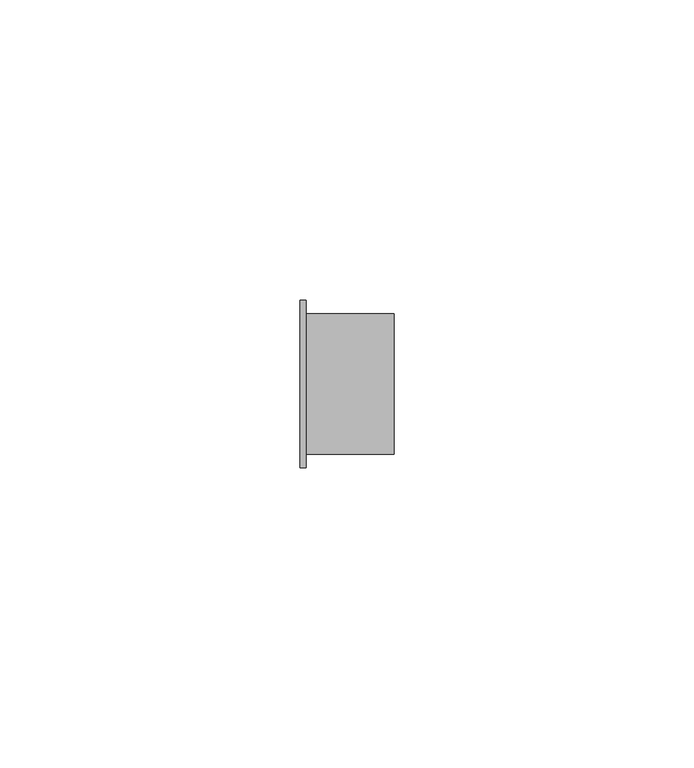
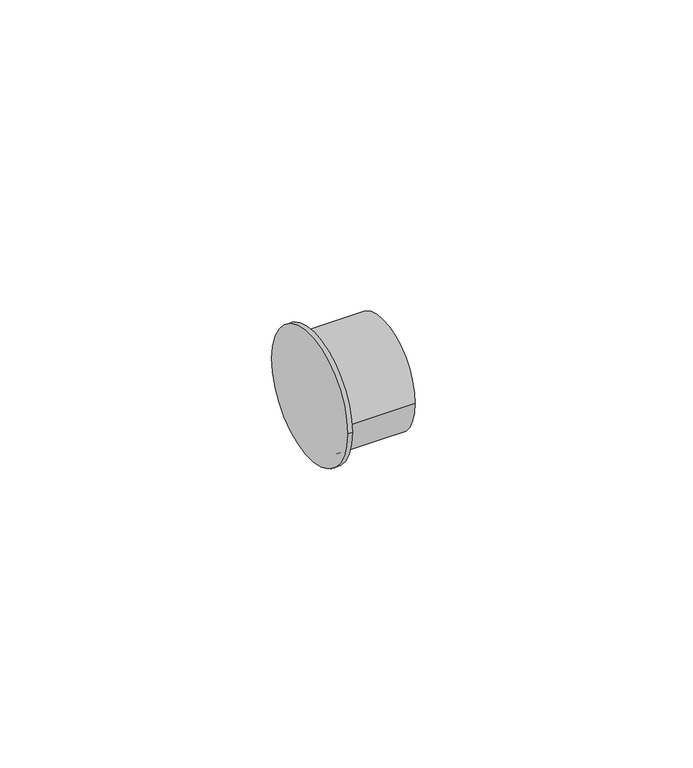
"""IFC4 building model written with IfcOpenShell, lengths in millimetres: pipe fitting geometry, Bucha de redução reta - Soldada - CU : Padrão."""

from ifc_helpers import new_model, si_unit, frame, origin, place, context, project, spatial, circle_curve, source, transform, mapped, element, save
from ifc_brep_helpers import plane_surface, cylinder_surface, advanced_brep


def pipe_fitting_39558790(model_context):
    return source(origin(), model_context, "Body", "AdvancedBrep", [
        advanced_brep(
        [(0.0, -13.97, 0.0), (0.0, 13.97, 0.0), (1.0, -13.97, 0.0), (1.0, 13.97, 0.0), (1.0, -11.7322, 0.0), (1.0, 11.7322, 0.0), (15.6434, -11.7322, 0.0), (15.6434, 11.7322, 0.0)],
        [
            (0, 1, circle_curve(frame((0.0, 0.0, 0.0), z_axis=(-1.0, 0.0, 0.0), x_axis=(0.0, 1.0, 0.0)), 13.97)),
            (1, 0, circle_curve(frame((0.0, 0.0, 0.0), z_axis=(-1.0, 0.0, 0.0), x_axis=(0.0, 1.0, 0.0)), 13.97)),
            (2, 3, circle_curve(frame((1.0, 0.0, 0.0), z_axis=(1.0, 0.0, 0.0), x_axis=(0.0, 1.0, 0.0)), 13.97)),
            (3, 2, circle_curve(frame((1.0, 0.0, 0.0), z_axis=(1.0, 0.0, 0.0), x_axis=(0.0, 1.0, 0.0)), 13.97)),
            (4, 5, circle_curve(frame((1.0, 0.0, 0.0), z_axis=(-1.0, 0.0, 0.0), x_axis=(0.0, 1.0, 0.0)), 11.7322)),
            (5, 4, circle_curve(frame((1.0, 0.0, 0.0), z_axis=(-1.0, 0.0, 0.0), x_axis=(0.0, 1.0, 0.0)), 11.7322)),
            (0, 2),
            (3, 1),
            (6, 7, circle_curve(frame((15.6434, 0.0, 0.0), z_axis=(1.0, 0.0, 0.0), x_axis=(0.0, 1.0, 0.0)), 11.7322)),
            (7, 6, circle_curve(frame((15.6434, 0.0, 0.0), z_axis=(1.0, 0.0, 0.0), x_axis=(0.0, 1.0, 0.0)), 11.7322)),
            (7, 5),
            (4, 6),
        ],
        [
            plane_surface(frame((0.0, 0.0, 0.0), z_axis=(-1.0, 0.0, 0.0), x_axis=(0.0, 0.0, 1.0))),
            plane_surface(frame((1.0, 0.0, 0.0), z_axis=(1.0, 0.0, 0.0), x_axis=(0.0, 0.0, 1.0))),
            cylinder_surface(frame((0.0, 0.0, 0.0), z_axis=(-1.0, 0.0, 0.0), x_axis=(0.0, 1.0, 0.0)), 13.97),
            plane_surface(frame((15.6434, 0.0, 0.0), z_axis=(1.0, 0.0, 0.0), x_axis=(0.0, 0.0, 1.0))),
            cylinder_surface(frame((1.0, 0.0, 0.0), z_axis=(-1.0, 0.0, 0.0), x_axis=(0.0, 1.0, 0.0)), 11.7322),
        ],
        [
            (0, [[1, 2]]),
            (1, [[3, 4], [5, 6]]),
            (2, [[-1, 7, -4, 8]]),
            (2, [[-2, -8, -3, -7]]),
            (3, [[9, 10]]),
            (4, [[-10, 11, -5, 12]]),
            (4, [[-9, -12, -6, -11]]),
        ],
    ),
    ])


if __name__ == "__main__":
    model = new_model("IFC4")
    model_context = context("Model", 3, world=origin())
    ifc_project = project(units=[si_unit("LENGTHUNIT", "METRE", prefix="MILLI")], contexts=[model_context])
    site = spatial("IfcSite", under=ifc_project)
    building = spatial("IfcBuilding", under=site)
    placement = place(None, origin())
    pipe_fitting_shape = pipe_fitting_39558790(model_context)
    element("IfcPipeFitting", 1, ObjectType="Bucha de redução reta - Soldada - CU : Padrão", at=placement, inside=building, context=model_context, shape_type="MappedRepresentation", body=[
        mapped(pipe_fitting_shape, transform((0.0, 0.0, 0.0), x_axis=(1.0, 0.0, 0.0), y_axis=(0.0, 1.0, 0.0), z_axis=(0.0, 0.0, 1.0))),
    ])
    save(model, "model.ifc")
